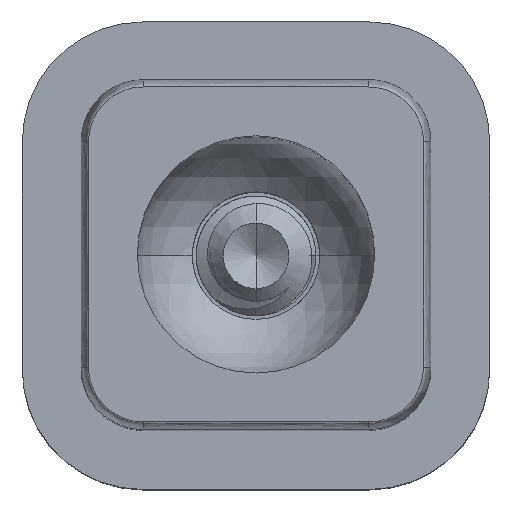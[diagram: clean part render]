
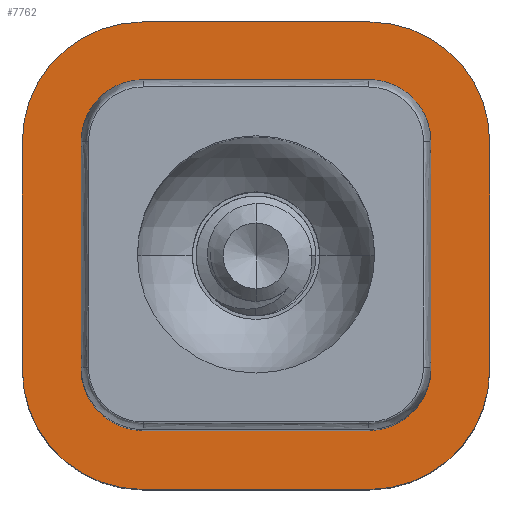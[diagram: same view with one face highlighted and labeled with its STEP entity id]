
A CAD part, top view. The second image highlights one B-rep face of the part: STEP entity #7762.
In plain terms, the highlighted planar face has unit normal (0, 0, 1).
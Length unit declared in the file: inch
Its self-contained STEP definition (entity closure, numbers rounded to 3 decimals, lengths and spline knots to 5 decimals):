
#7 = EDGE_LOOP ( 'NONE', ( #535, #5294, #5718, #8234, #6079, #1099, #3389, #6158 ) ) ;
#77 = CARTESIAN_POINT ( 'NONE',  ( 0.235, 0.365, 0. ) ) ;
#82 = VECTOR ( 'NONE', #6745, 39.37008 ) ;
#111 = VERTEX_POINT ( 'NONE', #5649 ) ;
#202 = EDGE_CURVE ( 'NONE', #5505, #111, #3643, .T. ) ;
#221 = VERTEX_POINT ( 'NONE', #859 ) ;
#500 = CIRCLE ( 'NONE', #3911, 0.25 ) ;
#520 = CARTESIAN_POINT ( 'NONE',  ( -0.235, -0.365, 0. ) ) ;
#535 = ORIENTED_EDGE ( 'NONE', *, *, #3441, .F. ) ;
#694 = CARTESIAN_POINT ( 'NONE',  ( 0.2375, -0.4875, 0. ) ) ;
#744 = DIRECTION ( 'NONE',  ( 0., 0., -1. ) ) ;
#859 = CARTESIAN_POINT ( 'NONE',  ( -0.4875, -0.2375, 0. ) ) ;
#977 = VERTEX_POINT ( 'NONE', #5761 ) ;
#1042 = CARTESIAN_POINT ( 'NONE',  ( 0.235, -0.235, 0. ) ) ;
#1055 = EDGE_CURVE ( 'NONE', #4722, #977, #7272, .T. ) ;
#1080 = VERTEX_POINT ( 'NONE', #7541 ) ;
#1082 = LINE ( 'NONE', #8302, #2744 ) ;
#1099 = ORIENTED_EDGE ( 'NONE', *, *, #1256, .F. ) ;
#1256 = EDGE_CURVE ( 'NONE', #977, #6829, #7050, .T. ) ;
#1341 = CARTESIAN_POINT ( 'NONE',  ( 0.235, -0.365, 0. ) ) ;
#1598 = LINE ( 'NONE', #6984, #3473 ) ;
#1690 = AXIS2_PLACEMENT_3D ( 'NONE', #3464, #8397, #4166 ) ;
#1745 = DIRECTION ( 'NONE',  ( 1., 0., 0. ) ) ;
#1752 = VECTOR ( 'NONE', #3691, 39.37008 ) ;
#1856 = CARTESIAN_POINT ( 'NONE',  ( 0.4875, -0.4875, 0. ) ) ;
#1940 = LINE ( 'NONE', #3964, #82 ) ;
#1990 = DIRECTION ( 'NONE',  ( 0., 0., 1. ) ) ;
#2035 = CIRCLE ( 'NONE', #3855, 0.13 ) ;
#2053 = DIRECTION ( 'NONE',  ( 0., -1., 0. ) ) ;
#2078 = CARTESIAN_POINT ( 'NONE',  ( 0.2375, -0.2375, 0. ) ) ;
#2128 = EDGE_CURVE ( 'NONE', #8157, #4315, #6494, .T. ) ;
#2136 = EDGE_CURVE ( 'NONE', #8157, #3984, #1082, .T. ) ;
#2179 = PLANE ( 'NONE',  #6862 ) ;
#2214 = CARTESIAN_POINT ( 'NONE',  ( 0., 0., 0. ) ) ;
#2236 = CARTESIAN_POINT ( 'NONE',  ( -0.4875, 0.4875, 0. ) ) ;
#2263 = EDGE_CURVE ( 'NONE', #7350, #2487, #6035, .T. ) ;
#2487 = VERTEX_POINT ( 'NONE', #77 ) ;
#2505 = LINE ( 'NONE', #6986, #7678 ) ;
#2661 = ORIENTED_EDGE ( 'NONE', *, *, #8269, .F. ) ;
#2743 = DIRECTION ( 'NONE',  ( 0., 0., -1. ) ) ;
#2744 = VECTOR ( 'NONE', #6880, 39.37008 ) ;
#2791 = DIRECTION ( 'NONE',  ( 1., 0., 0. ) ) ;
#2929 = DIRECTION ( 'NONE',  ( 0., 0., -1. ) ) ;
#2972 = VECTOR ( 'NONE', #6127, 39.37008 ) ;
#2973 = CARTESIAN_POINT ( 'NONE',  ( -0.2375, 0.4875, 0. ) ) ;
#3148 = CIRCLE ( 'NONE', #4021, 0.25 ) ;
#3172 = VERTEX_POINT ( 'NONE', #4629 ) ;
#3174 = LINE ( 'NONE', #4745, #2972 ) ;
#3293 = ORIENTED_EDGE ( 'NONE', *, *, #2136, .T. ) ;
#3328 = EDGE_CURVE ( 'NONE', #6829, #1080, #3391, .T. ) ;
#3389 = ORIENTED_EDGE ( 'NONE', *, *, #1055, .F. ) ;
#3391 = LINE ( 'NONE', #1856, #5043 ) ;
#3441 = EDGE_CURVE ( 'NONE', #221, #3172, #3174, .T. ) ;
#3464 = CARTESIAN_POINT ( 'NONE',  ( 0.235, 0.235, 0. ) ) ;
#3473 = VECTOR ( 'NONE', #2053, 39.37008 ) ;
#3475 = DIRECTION ( 'NONE',  ( 1., 0., 0. ) ) ;
#3525 = CARTESIAN_POINT ( 'NONE',  ( -0.365, -0.235, 0. ) ) ;
#3536 = ORIENTED_EDGE ( 'NONE', *, *, #4653, .T. ) ;
#3565 = DIRECTION ( 'NONE',  ( 0., 0., -1. ) ) ;
#3643 = LINE ( 'NONE', #7919, #1752 ) ;
#3684 = EDGE_CURVE ( 'NONE', #111, #221, #6025, .T. ) ;
#3691 = DIRECTION ( 'NONE',  ( -1., 0., 0. ) ) ;
#3855 = AXIS2_PLACEMENT_3D ( 'NONE', #6207, #1990, #6924 ) ;
#3911 = AXIS2_PLACEMENT_3D ( 'NONE', #2078, #7005, #2791 ) ;
#3964 = CARTESIAN_POINT ( 'NONE',  ( -0.365, -0.365, 0. ) ) ;
#3984 = VERTEX_POINT ( 'NONE', #8241 ) ;
#4021 = AXIS2_PLACEMENT_3D ( 'NONE', #7784, #3565, #8496 ) ;
#4068 = CARTESIAN_POINT ( 'NONE',  ( -0.235, -0.235, 0. ) ) ;
#4166 = DIRECTION ( 'NONE',  ( 1., 0., 0. ) ) ;
#4315 = VERTEX_POINT ( 'NONE', #520 ) ;
#4629 = CARTESIAN_POINT ( 'NONE',  ( -0.4875, 0.2375, 0. ) ) ;
#4653 = EDGE_CURVE ( 'NONE', #5193, #4315, #1940, .T. ) ;
#4680 = AXIS2_PLACEMENT_3D ( 'NONE', #6959, #2743, #7665 ) ;
#4722 = VERTEX_POINT ( 'NONE', #2973 ) ;
#4745 = CARTESIAN_POINT ( 'NONE',  ( -0.4875, -0.4875, 0. ) ) ;
#4778 = DIRECTION ( 'NONE',  ( 1., 0., 0. ) ) ;
#4901 = EDGE_CURVE ( 'NONE', #5193, #4974, #5033, .T. ) ;
#4969 = CARTESIAN_POINT ( 'NONE',  ( -0.2375, -0.2375, 0. ) ) ;
#4974 = VERTEX_POINT ( 'NONE', #5307 ) ;
#5033 = CIRCLE ( 'NONE', #8225, 0.13 ) ;
#5043 = VECTOR ( 'NONE', #6101, 39.37008 ) ;
#5171 = ORIENTED_EDGE ( 'NONE', *, *, #8393, .T. ) ;
#5193 = VERTEX_POINT ( 'NONE', #1341 ) ;
#5247 = EDGE_CURVE ( 'NONE', #7578, #2487, #2505, .T. ) ;
#5294 = ORIENTED_EDGE ( 'NONE', *, *, #3684, .F. ) ;
#5299 = CARTESIAN_POINT ( 'NONE',  ( 0.4875, 0.2375, 0. ) ) ;
#5307 = CARTESIAN_POINT ( 'NONE',  ( 0.365, -0.235, 0. ) ) ;
#5505 = VERTEX_POINT ( 'NONE', #694 ) ;
#5640 = CARTESIAN_POINT ( 'NONE',  ( 0.365, 0.235, 0. ) ) ;
#5649 = CARTESIAN_POINT ( 'NONE',  ( -0.2375, -0.4875, 0. ) ) ;
#5664 = DIRECTION ( 'NONE',  ( 1., 0., 0. ) ) ;
#5718 = ORIENTED_EDGE ( 'NONE', *, *, #202, .F. ) ;
#5761 = CARTESIAN_POINT ( 'NONE',  ( 0.2375, 0.4875, 0. ) ) ;
#5818 = ORIENTED_EDGE ( 'NONE', *, *, #2128, .F. ) ;
#5864 = EDGE_CURVE ( 'NONE', #1080, #5505, #500, .T. ) ;
#5965 = DIRECTION ( 'NONE',  ( 0., 0., 1. ) ) ;
#6025 = CIRCLE ( 'NONE', #8108, 0.25 ) ;
#6035 = CIRCLE ( 'NONE', #1690, 0.13 ) ;
#6079 = ORIENTED_EDGE ( 'NONE', *, *, #3328, .F. ) ;
#6101 = DIRECTION ( 'NONE',  ( 0., -1., 0. ) ) ;
#6127 = DIRECTION ( 'NONE',  ( 0., 1., 0. ) ) ;
#6158 = ORIENTED_EDGE ( 'NONE', *, *, #7666, .F. ) ;
#6207 = CARTESIAN_POINT ( 'NONE',  ( -0.235, 0.235, 0. ) ) ;
#6480 = DIRECTION ( 'NONE',  ( 1., 0., 0. ) ) ;
#6494 = CIRCLE ( 'NONE', #8015, 0.13 ) ;
#6605 = ORIENTED_EDGE ( 'NONE', *, *, #5247, .T. ) ;
#6745 = DIRECTION ( 'NONE',  ( -1., 0., 0. ) ) ;
#6829 = VERTEX_POINT ( 'NONE', #5299 ) ;
#6862 = AXIS2_PLACEMENT_3D ( 'NONE', #2214, #2929, #7856 ) ;
#6880 = DIRECTION ( 'NONE',  ( 0., 1., 0. ) ) ;
#6924 = DIRECTION ( 'NONE',  ( 1., 0., 0. ) ) ;
#6959 = CARTESIAN_POINT ( 'NONE',  ( 0.2375, 0.2375, 0. ) ) ;
#6984 = CARTESIAN_POINT ( 'NONE',  ( 0.365, -0.365, 0. ) ) ;
#6986 = CARTESIAN_POINT ( 'NONE',  ( -0.365, 0.365, 0. ) ) ;
#7005 = DIRECTION ( 'NONE',  ( 0., 0., -1. ) ) ;
#7046 = CARTESIAN_POINT ( 'NONE',  ( -0.235, 0.365, 0. ) ) ;
#7050 = CIRCLE ( 'NONE', #4680, 0.25 ) ;
#7272 = LINE ( 'NONE', #2236, #8919 ) ;
#7350 = VERTEX_POINT ( 'NONE', #5640 ) ;
#7541 = CARTESIAN_POINT ( 'NONE',  ( 0.4875, -0.2375, 0. ) ) ;
#7578 = VERTEX_POINT ( 'NONE', #7046 ) ;
#7665 = DIRECTION ( 'NONE',  ( 1., 0., 0. ) ) ;
#7666 = EDGE_CURVE ( 'NONE', #3172, #4722, #3148, .T. ) ;
#7678 = VECTOR ( 'NONE', #3475, 39.37008 ) ;
#7762 = ADVANCED_FACE ( 'NONE', ( #8777, #8557 ), #2179, .F. ) ;
#7784 = CARTESIAN_POINT ( 'NONE',  ( -0.2375, 0.2375, 0. ) ) ;
#7807 = ORIENTED_EDGE ( 'NONE', *, *, #2263, .F. ) ;
#7856 = DIRECTION ( 'NONE',  ( -1., 0., 0. ) ) ;
#7919 = CARTESIAN_POINT ( 'NONE',  ( -0.4875, -0.4875, 0. ) ) ;
#7956 = ORIENTED_EDGE ( 'NONE', *, *, #4901, .F. ) ;
#8015 = AXIS2_PLACEMENT_3D ( 'NONE', #4068, #9005, #4778 ) ;
#8108 = AXIS2_PLACEMENT_3D ( 'NONE', #4969, #744, #5664 ) ;
#8157 = VERTEX_POINT ( 'NONE', #3525 ) ;
#8225 = AXIS2_PLACEMENT_3D ( 'NONE', #1042, #5965, #1745 ) ;
#8234 = ORIENTED_EDGE ( 'NONE', *, *, #5864, .F. ) ;
#8241 = CARTESIAN_POINT ( 'NONE',  ( -0.365, 0.235, 0. ) ) ;
#8269 = EDGE_CURVE ( 'NONE', #7578, #3984, #2035, .T. ) ;
#8302 = CARTESIAN_POINT ( 'NONE',  ( -0.365, -0.365, 0. ) ) ;
#8393 = EDGE_CURVE ( 'NONE', #7350, #4974, #1598, .T. ) ;
#8397 = DIRECTION ( 'NONE',  ( 0., 0., 1. ) ) ;
#8496 = DIRECTION ( 'NONE',  ( 1., 0., 0. ) ) ;
#8557 = FACE_BOUND ( 'NONE', #8614, .T. ) ;
#8614 = EDGE_LOOP ( 'NONE', ( #3536, #5818, #3293, #2661, #6605, #7807, #5171, #7956 ) ) ;
#8777 = FACE_OUTER_BOUND ( 'NONE', #7, .T. ) ;
#8919 = VECTOR ( 'NONE', #6480, 39.37008 ) ;
#9005 = DIRECTION ( 'NONE',  ( 0., 0., 1. ) ) ;
